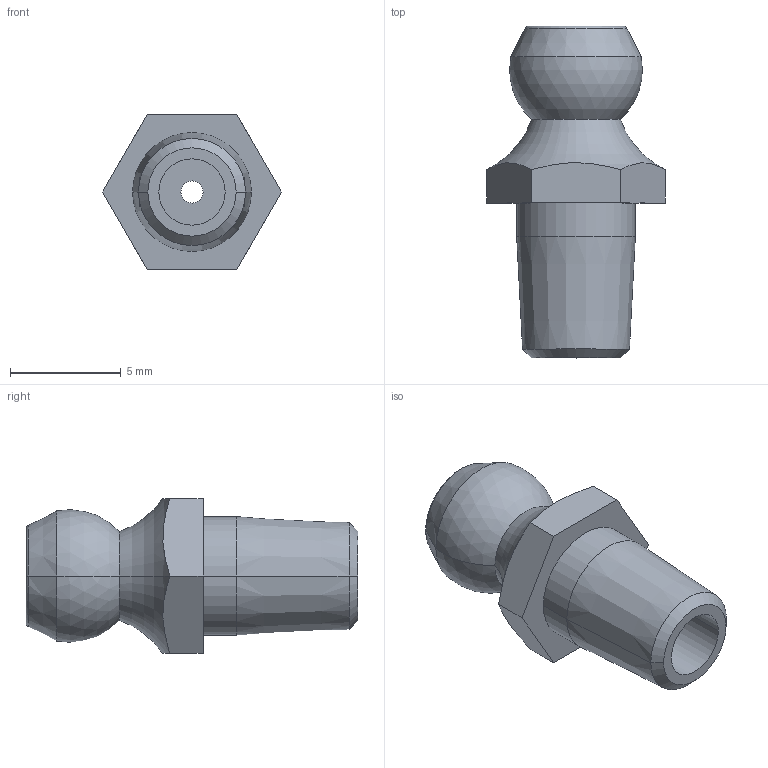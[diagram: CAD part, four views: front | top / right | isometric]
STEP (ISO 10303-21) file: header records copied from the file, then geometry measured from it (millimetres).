
FILE_DESCRIPTION((''),'2;1');
FILE_NAME('0022005','2016-05-12T',('lpini'),(''),'PRO/ENGINEER BY PARAMETRIC TECHNOLOGY CORPORATION, 2015030','PRO/ENGINEER BY PARAMETRIC TECHNOLOGY CORPORATION, 2015030','');
FILE_SCHEMA(('AUTOMOTIVE_DESIGN { 1 0 10303 214 1 1 1 1 }'));
Length unit declared in the file: millimetre
Products named in the file (1): 0022005
Bounding box: 8.08 x 15 x 7 mm (x, y, z)
Volume: 305.4 mm3; surface area: 419 mm2
Topology: 1 solids, 1 shells, 28 faces, 60 edges, 36 vertices
Faces by surface type: plane 10, cylinder 6, cone 6, torus 4, sphere 2
Entity records: 899 total; most frequent: CARTESIAN_POINT 218, DIRECTION 140, ORIENTED_EDGE 120, EDGE_CURVE 60, AXIS2_PLACEMENT_3D 58, VERTEX_POINT 36, EDGE_LOOP 32, CIRCLE 30
